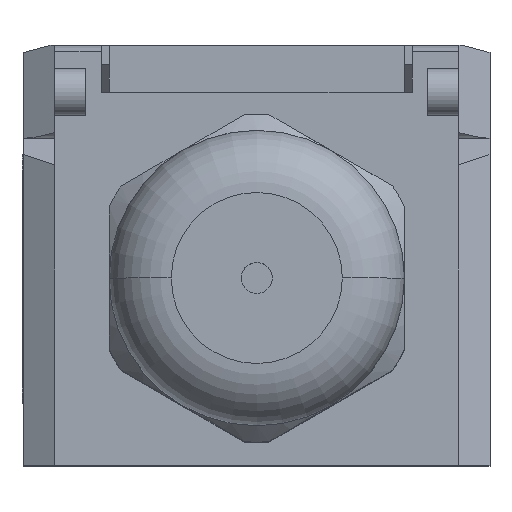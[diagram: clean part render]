
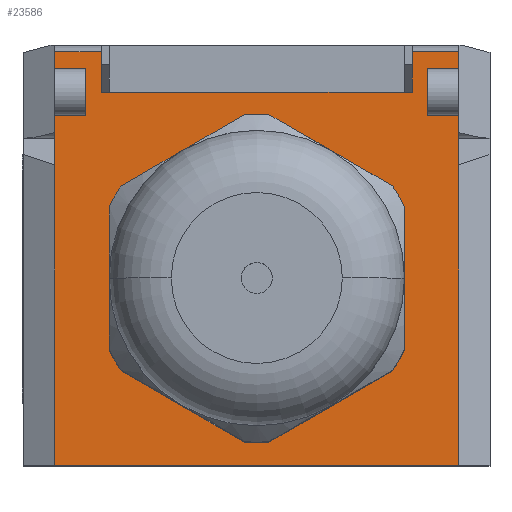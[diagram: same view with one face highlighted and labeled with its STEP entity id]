
A CAD part, top view. The second image highlights one B-rep face of the part: STEP entity #23586.
In plain terms, the highlighted planar face has unit normal (0, 0, 1).
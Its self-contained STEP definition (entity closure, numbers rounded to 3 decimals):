
#1348=DIRECTION('',(1.,0.,0.));
#1349=VECTOR('',#1348,26.);
#1350=CARTESIAN_POINT('',(-13.,0.,45.));
#1351=LINE('',#1350,#1349);
#2639=DIRECTION('',(0.,1.,0.));
#2640=VECTOR('',#2639,2.078);
#2641=CARTESIAN_POINT('',(13.,19.323,45.));
#2642=LINE('',#2641,#2640);
#2661=DIRECTION('',(-1.,0.,0.));
#2662=VECTOR('',#2661,2.);
#2663=CARTESIAN_POINT('',(13.,25.5,45.));
#2664=LINE('',#2663,#2662);
#2668=DIRECTION('',(0.,-1.,0.));
#2669=VECTOR('',#2668,1.5);
#2670=CARTESIAN_POINT('',(11.,25.5,45.));
#2671=LINE('',#2670,#2669);
#2675=DIRECTION('',(0.,-1.,0.));
#2676=VECTOR('',#2675,1.5);
#2677=CARTESIAN_POINT('',(11.,24.,45.));
#2678=LINE('',#2677,#2676);
#2682=DIRECTION('',(-1.,0.,0.));
#2683=VECTOR('',#2682,2.);
#2684=CARTESIAN_POINT('',(13.,22.5,45.));
#2685=LINE('',#2684,#2683);
#2689=DIRECTION('',(0.,-1.,0.));
#2690=VECTOR('',#2689,1.098);
#2691=CARTESIAN_POINT('',(13.,22.5,45.));
#2692=LINE('',#2691,#2690);
#2696=DIRECTION('',(0.,1.,0.));
#2697=VECTOR('',#2696,19.323);
#2698=CARTESIAN_POINT('',(13.,0.,45.));
#2699=LINE('',#2698,#2697);
#2703=DIRECTION('',(0.,1.,0.));
#2704=VECTOR('',#2703,19.323);
#2705=CARTESIAN_POINT('',(-13.,0.,45.));
#2706=LINE('',#2705,#2704);
#2710=DIRECTION('',(0.,-1.,0.));
#2711=VECTOR('',#2710,1.098);
#2712=CARTESIAN_POINT('',(-13.,22.5,45.));
#2713=LINE('',#2712,#2711);
#2717=DIRECTION('',(1.,0.,0.));
#2718=VECTOR('',#2717,2.);
#2719=CARTESIAN_POINT('',(-13.,22.5,45.));
#2720=LINE('',#2719,#2718);
#2724=DIRECTION('',(0.,-1.,0.));
#2725=VECTOR('',#2724,1.5);
#2726=CARTESIAN_POINT('',(-11.,24.,45.));
#2727=LINE('',#2726,#2725);
#2731=DIRECTION('',(0.,-1.,0.));
#2732=VECTOR('',#2731,1.5);
#2733=CARTESIAN_POINT('',(-11.,25.5,45.));
#2734=LINE('',#2733,#2732);
#2738=DIRECTION('',(1.,0.,0.));
#2739=VECTOR('',#2738,2.);
#2740=CARTESIAN_POINT('',(-13.,25.5,45.));
#2741=LINE('',#2740,#2739);
#2745=DIRECTION('',(0.,-1.,0.));
#2746=VECTOR('',#2745,1.098);
#2747=CARTESIAN_POINT('',(-13.,26.598,45.));
#2748=LINE('',#2747,#2746);
#2752=DIRECTION('',(1.,0.,0.));
#2753=VECTOR('',#2752,3.);
#2754=CARTESIAN_POINT('',(-13.,26.598,45.));
#2755=LINE('',#2754,#2753);
#2759=DIRECTION('',(0.,-1.,0.));
#2760=VECTOR('',#2759,2.598);
#2761=CARTESIAN_POINT('',(-10.,26.598,45.));
#2762=LINE('',#2761,#2760);
#2766=DIRECTION('',(1.,0.,0.));
#2767=VECTOR('',#2766,20.);
#2768=CARTESIAN_POINT('',(-10.,24.,45.));
#2769=LINE('',#2768,#2767);
#2773=DIRECTION('',(0.,-1.,0.));
#2774=VECTOR('',#2773,2.598);
#2775=CARTESIAN_POINT('',(10.,26.598,45.));
#2776=LINE('',#2775,#2774);
#2780=DIRECTION('',(1.,0.,0.));
#2781=VECTOR('',#2780,3.);
#2782=CARTESIAN_POINT('',(10.,26.598,45.));
#2783=LINE('',#2782,#2781);
#2787=DIRECTION('',(0.,-1.,0.));
#2788=VECTOR('',#2787,1.098);
#2789=CARTESIAN_POINT('',(13.,26.598,45.));
#2790=LINE('',#2789,#2788);
#2794=CARTESIAN_POINT('',(0.,12.,45.));
#2795=DIRECTION('',(0.,0.,-1.));
#2796=DIRECTION('',(0.,-1.,0.));
#2797=AXIS2_PLACEMENT_3D('',#2794,#2795,#2796);
#2802=CARTESIAN_POINT('',(0.,12.,45.));
#2803=DIRECTION('',(0.,0.,-1.));
#2804=DIRECTION('',(0.,1.,0.));
#2805=AXIS2_PLACEMENT_3D('',#2802,#2803,#2804);
#3174=DIRECTION('',(0.,-1.,0.));
#3175=VECTOR('',#3174,2.078);
#3176=CARTESIAN_POINT('',(-13.,21.402,45.));
#3177=LINE('',#3176,#3175);
#18172=CARTESIAN_POINT('',(13.,0.,45.));
#18174=VERTEX_POINT('',#18172);
#18175=CARTESIAN_POINT('',(-13.,0.,45.));
#18177=VERTEX_POINT('',#18175);
#18188=CARTESIAN_POINT('',(13.,19.323,45.));
#18190=VERTEX_POINT('',#18188);
#18191=CARTESIAN_POINT('',(-13.,19.323,45.));
#18193=VERTEX_POINT('',#18191);
#18195=CARTESIAN_POINT('',(-10.,26.598,45.));
#18196=CARTESIAN_POINT('',(-10.,24.,45.));
#18197=VERTEX_POINT('',#18195);
#18198=VERTEX_POINT('',#18196);
#18199=CARTESIAN_POINT('',(10.,24.,45.));
#18200=VERTEX_POINT('',#18199);
#18201=CARTESIAN_POINT('',(10.,26.598,45.));
#18202=VERTEX_POINT('',#18201);
#19655=CARTESIAN_POINT('',(13.,26.598,45.));
#19656=CARTESIAN_POINT('',(13.,25.5,45.));
#19657=VERTEX_POINT('',#19655);
#19658=VERTEX_POINT('',#19656);
#19659=CARTESIAN_POINT('',(13.,22.5,45.));
#19660=CARTESIAN_POINT('',(13.,21.402,45.));
#19661=VERTEX_POINT('',#19659);
#19662=VERTEX_POINT('',#19660);
#19663=CARTESIAN_POINT('',(-13.,26.598,45.));
#19664=CARTESIAN_POINT('',(-13.,25.5,45.));
#19665=VERTEX_POINT('',#19663);
#19666=VERTEX_POINT('',#19664);
#19667=CARTESIAN_POINT('',(-13.,22.5,45.));
#19668=CARTESIAN_POINT('',(-13.,21.402,45.));
#19669=VERTEX_POINT('',#19667);
#19670=VERTEX_POINT('',#19668);
#19736=CARTESIAN_POINT('',(11.,24.,45.));
#19738=VERTEX_POINT('',#19736);
#19746=CARTESIAN_POINT('',(-11.,24.,45.));
#19748=VERTEX_POINT('',#19746);
#19751=CARTESIAN_POINT('',(11.,25.5,45.));
#19752=VERTEX_POINT('',#19751);
#19753=CARTESIAN_POINT('',(11.,22.5,45.));
#19754=VERTEX_POINT('',#19753);
#19755=CARTESIAN_POINT('',(-11.,25.5,45.));
#19756=VERTEX_POINT('',#19755);
#19757=CARTESIAN_POINT('',(-11.,22.5,45.));
#19758=VERTEX_POINT('',#19757);
#20917=CARTESIAN_POINT('',(0.,4.,45.));
#20918=CARTESIAN_POINT('',(0.,20.,45.));
#20919=VERTEX_POINT('',#20917);
#20920=VERTEX_POINT('',#20918);
#23531=CARTESIAN_POINT('',(-15.,0.,45.));
#23532=DIRECTION('',(0.,0.,1.));
#23533=DIRECTION('',(1.,0.,0.));
#23534=AXIS2_PLACEMENT_3D('',#23531,#23532,#23533);
#23535=PLANE('',#23534);
#23537=ORIENTED_EDGE('',*,*,#23536,.T.);
#23539=ORIENTED_EDGE('',*,*,#23538,.T.);
#23541=ORIENTED_EDGE('',*,*,#23540,.T.);
#23543=ORIENTED_EDGE('',*,*,#23542,.F.);
#23545=ORIENTED_EDGE('',*,*,#23544,.T.);
#23546=ORIENTED_EDGE('',*,*,#23515,.F.);
#23548=ORIENTED_EDGE('',*,*,#23547,.F.);
#23549=ORIENTED_EDGE('',*,*,#22299,.F.);
#23551=ORIENTED_EDGE('',*,*,#23550,.T.);
#23553=ORIENTED_EDGE('',*,*,#23552,.F.);
#23555=ORIENTED_EDGE('',*,*,#23554,.F.);
#23557=ORIENTED_EDGE('',*,*,#23556,.T.);
#23559=ORIENTED_EDGE('',*,*,#23558,.F.);
#23561=ORIENTED_EDGE('',*,*,#23560,.F.);
#23563=ORIENTED_EDGE('',*,*,#23562,.F.);
#23565=ORIENTED_EDGE('',*,*,#23564,.F.);
#23567=ORIENTED_EDGE('',*,*,#23566,.T.);
#23569=ORIENTED_EDGE('',*,*,#23568,.T.);
#23571=ORIENTED_EDGE('',*,*,#23570,.T.);
#23573=ORIENTED_EDGE('',*,*,#23572,.F.);
#23575=ORIENTED_EDGE('',*,*,#23574,.T.);
#23577=ORIENTED_EDGE('',*,*,#23576,.T.);
#23578=EDGE_LOOP('',(#23537,#23539,#23541,#23543,#23545,#23546,#23548,#23549,
#23551,#23553,#23555,#23557,#23559,#23561,#23563,#23565,#23567,#23569,#23571,
#23573,#23575,#23577));
#23579=FACE_OUTER_BOUND('',#23578,.F.);
#23581=ORIENTED_EDGE('',*,*,#23580,.F.);
#23583=ORIENTED_EDGE('',*,*,#23582,.F.);
#23584=EDGE_LOOP('',(#23581,#23583));
#23585=FACE_BOUND('',#23584,.F.);
#2798=CIRCLE('',#2797,8.);
#2806=CIRCLE('',#2805,8.);
#22299=EDGE_CURVE('',#18177,#18174,#1351,.T.);
#23515=EDGE_CURVE('',#18190,#19662,#2642,.T.);
#23536=EDGE_CURVE('',#19658,#19752,#2664,.T.);
#23538=EDGE_CURVE('',#19752,#19738,#2671,.T.);
#23540=EDGE_CURVE('',#19738,#19754,#2678,.T.);
#23542=EDGE_CURVE('',#19661,#19754,#2685,.T.);
#23544=EDGE_CURVE('',#19661,#19662,#2692,.T.);
#23547=EDGE_CURVE('',#18174,#18190,#2699,.T.);
#23550=EDGE_CURVE('',#18177,#18193,#2706,.T.);
#23552=EDGE_CURVE('',#19670,#18193,#3177,.T.);
#23554=EDGE_CURVE('',#19669,#19670,#2713,.T.);
#23556=EDGE_CURVE('',#19669,#19758,#2720,.T.);
#23558=EDGE_CURVE('',#19748,#19758,#2727,.T.);
#23560=EDGE_CURVE('',#19756,#19748,#2734,.T.);
#23562=EDGE_CURVE('',#19666,#19756,#2741,.T.);
#23564=EDGE_CURVE('',#19665,#19666,#2748,.T.);
#23566=EDGE_CURVE('',#19665,#18197,#2755,.T.);
#23568=EDGE_CURVE('',#18197,#18198,#2762,.T.);
#23570=EDGE_CURVE('',#18198,#18200,#2769,.T.);
#23572=EDGE_CURVE('',#18202,#18200,#2776,.T.);
#23574=EDGE_CURVE('',#18202,#19657,#2783,.T.);
#23576=EDGE_CURVE('',#19657,#19658,#2790,.T.);
#23580=EDGE_CURVE('',#20919,#20920,#2798,.T.);
#23582=EDGE_CURVE('',#20920,#20919,#2806,.T.);
#23586=ADVANCED_FACE('',(#23579,#23585),#23535,.T.);
